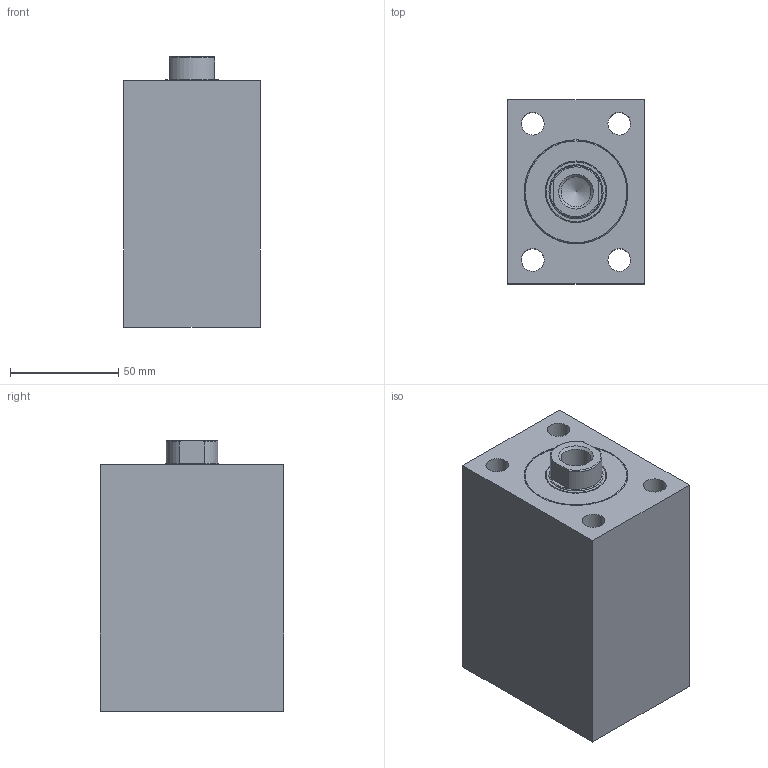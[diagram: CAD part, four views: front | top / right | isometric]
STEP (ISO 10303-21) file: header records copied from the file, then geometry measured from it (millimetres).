
FILE_DESCRIPTION( ( 'STEP AP203' ), '1' );
FILE_NAME( 'C:/Users/SAYKO.ltd/Desktop/SBZ100/02/SBZ100-40/SBZ100.40__FORM_02_STROKE_40__H2_58_POS_0_.stp', ' ', ( ' ' ), ( ' ' ), 'PSStep 15.0.47', 'PARTsolutions', ' ' );
FILE_SCHEMA( ( 'CONFIG_CONTROL_DESIGN' ) );
Length unit declared in the file: millimetre
Products named in the file (5): SBZ100.40  FORM=02 STROKE=40 (H2=58 POS=0); HI_SBZ10040  FORM=02 STROKE=40 H2=58 -C; HI_SBZ10040  FORM=02 STROKE=40-R; HI_SBZ100.40-C; HI_SBZ100.40-S
Assembly tree (4 placements, depth 2):
  SBZ100.40  FORM=02 STROKE=40 (H2=58 POS=0)
    HI_SBZ10040  FORM=02 STROKE=40 H2=58 -C
    HI_SBZ10040  FORM=02 STROKE=40-R
    HI_SBZ100.40-C
    HI_SBZ100.40-S
Bounding box: 63 x 85 x 125 mm (x, y, z)
Volume: 529176.3 mm3; surface area: 101021.4 mm2
Topology: 4 solids, 4 shells, 66 faces, 130 edges, 85 vertices
Faces by surface type: plane 31, cylinder 28, cone 4, torus 3
Full cylindrical faces by diameter (mm): 3 x2, 10.5 x4, 11.445 x2, 13.835 x1, 16 x2, 18 x4, 25 x4, 28.5 x1, 33 x2, 40 x2, 48 x2
Entity records: 3733 total; most frequent: CARTESIAN_POINT 2503, ORIENTED_EDGE 176, DIRECTION 158, EDGE_LOOP 128, FACE_OUTER_BOUND 93, EDGE_CURVE 88, VERTEX_POINT 77, B_SPLINE_CURVE_WITH_KNOTS 72
